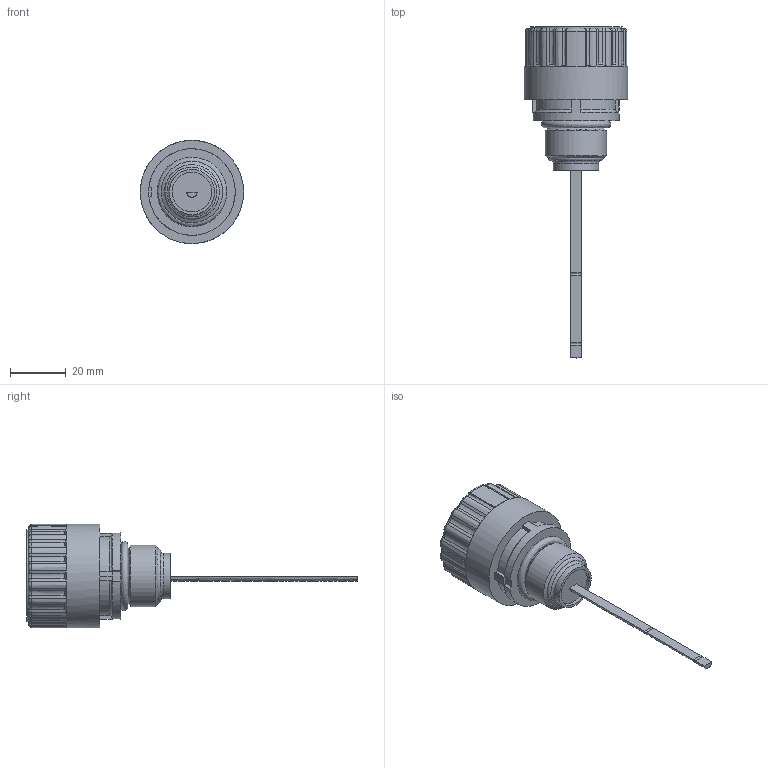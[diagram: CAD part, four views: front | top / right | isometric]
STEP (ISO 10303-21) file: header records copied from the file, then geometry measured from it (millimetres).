
FILE_DESCRIPTION((''),'2;1');
FILE_NAME('U:\Users\r.stiegele\L1_0406-60(12153000).stp', '2014-03-11T08:34:20',('User'),('SDRC'),'I-DEAS Master Series 9','UNIX', 'Yes');
FILE_SCHEMA(('AUTOMOTIVE_DESIGN { 1 0 10303 214 1 1 1 1 }'));
Length unit declared in the file: millimetre
Products named in the file (1): 12153000(289517)
Bounding box: 36.97 x 118.9 x 36.98 mm (x, y, z)
Volume: 39021.5 mm3; surface area: 8266 mm2
Topology: 1 solids, 1 shells, 447 faces, 1196 edges, 765 vertices
Faces by surface type: bspline 447
Entity records: 13897 total; most frequent: CARTESIAN_POINT 6861, ORIENTED_EDGE 2382, EDGE_CURVE 1191, VERTEX_POINT 765, B_SPLINE_CURVE_WITH_KNOTS 575, EDGE_LOOP 466, FACE_OUTER_BOUND 447, ADVANCED_FACE 447
